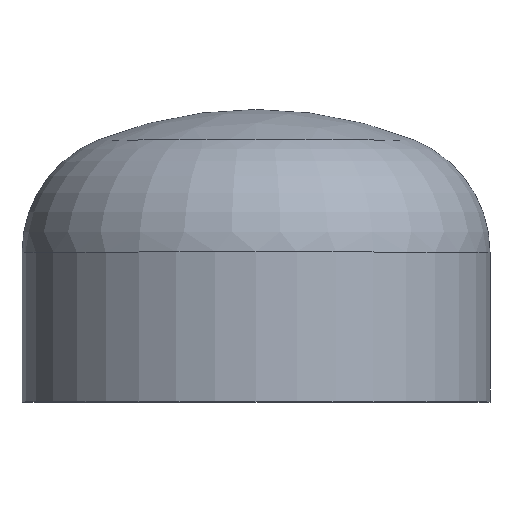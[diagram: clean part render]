
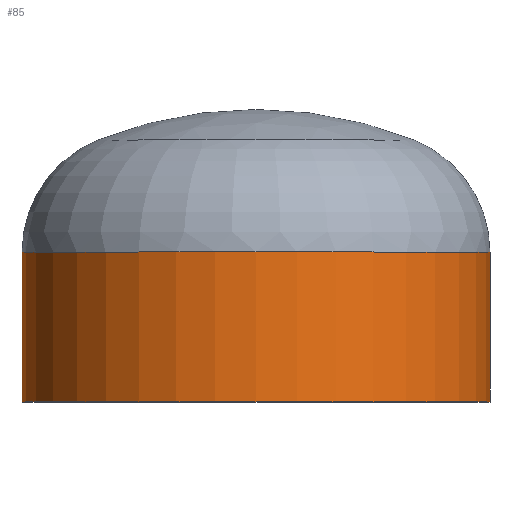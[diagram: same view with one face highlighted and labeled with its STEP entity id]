
A CAD part, top view. The second image highlights one B-rep face of the part: STEP entity #85.
In plain terms, the highlighted cylindrical face has radius 203.2 mm (diameter 406.4 mm), a partial arc.
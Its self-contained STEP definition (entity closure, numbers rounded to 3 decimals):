
#3 = VERTEX_POINT ( 'NONE', #249 ) ;
#14 = FACE_OUTER_BOUND ( 'NONE', #19, .T. ) ;
#19 = EDGE_LOOP ( 'NONE', ( #38, #367, #57, #117 ) ) ;
#26 = VERTEX_POINT ( 'NONE', #277 ) ;
#38 = ORIENTED_EDGE ( 'NONE', *, *, #170, .T. ) ;
#57 = ORIENTED_EDGE ( 'NONE', *, *, #339, .F. ) ;
#61 = VERTEX_POINT ( 'NONE', #248 ) ;
#85 = ADVANCED_FACE ( 'NONE', ( #14 ), #243, .T. ) ;
#96 = AXIS2_PLACEMENT_3D ( 'NONE', #105, #115, #130 ) ;
#105 = CARTESIAN_POINT ( 'NONE',  ( 0., 0., 0. ) ) ;
#107 = VERTEX_POINT ( 'NONE', #231 ) ;
#115 = DIRECTION ( 'NONE',  ( 0., -1., 0. ) ) ;
#117 = ORIENTED_EDGE ( 'NONE', *, *, #216, .F. ) ;
#129 = VECTOR ( 'NONE', #255, 1000. ) ;
#130 = DIRECTION ( 'NONE',  ( 1., 0., 0. ) ) ;
#134 = AXIS2_PLACEMENT_3D ( 'NONE', #307, #305, #316 ) ;
#139 = VECTOR ( 'NONE', #207, 1000. ) ;
#151 = LINE ( 'NONE', #219, #139 ) ;
#154 = AXIS2_PLACEMENT_3D ( 'NONE', #372, #240, #246 ) ;
#170 = EDGE_CURVE ( 'NONE', #107, #3, #353, .T. ) ;
#181 = EDGE_CURVE ( 'NONE', #3, #61, #151, .T. ) ;
#207 = DIRECTION ( 'NONE',  ( 0., -1., 0. ) ) ;
#214 = LINE ( 'NONE', #257, #129 ) ;
#216 = EDGE_CURVE ( 'NONE', #107, #26, #214, .T. ) ;
#219 = CARTESIAN_POINT ( 'NONE',  ( -203.2, 0., 0. ) ) ;
#231 = CARTESIAN_POINT ( 'NONE',  ( 203.2, 130., 0. ) ) ;
#240 = DIRECTION ( 'NONE',  ( 0., -1., 0. ) ) ;
#243 = CYLINDRICAL_SURFACE ( 'NONE', #154, 203.2 ) ;
#246 = DIRECTION ( 'NONE',  ( 1., 0., 0. ) ) ;
#248 = CARTESIAN_POINT ( 'NONE',  ( -203.2, 0., 0. ) ) ;
#249 = CARTESIAN_POINT ( 'NONE',  ( -203.2, 130., 0. ) ) ;
#255 = DIRECTION ( 'NONE',  ( 0., -1., 0. ) ) ;
#257 = CARTESIAN_POINT ( 'NONE',  ( 203.2, 0., 0. ) ) ;
#277 = CARTESIAN_POINT ( 'NONE',  ( 203.2, 0., 0. ) ) ;
#305 = DIRECTION ( 'NONE',  ( 0., -1., 0. ) ) ;
#307 = CARTESIAN_POINT ( 'NONE',  ( 0., 130., 0. ) ) ;
#316 = DIRECTION ( 'NONE',  ( 1., 0., 0. ) ) ;
#317 = CIRCLE ( 'NONE', #96, 203.2 ) ;
#339 = EDGE_CURVE ( 'NONE', #26, #61, #317, .T. ) ;
#353 = CIRCLE ( 'NONE', #134, 203.2 ) ;
#367 = ORIENTED_EDGE ( 'NONE', *, *, #181, .T. ) ;
#372 = CARTESIAN_POINT ( 'NONE',  ( 0., 0., 0. ) ) ;
